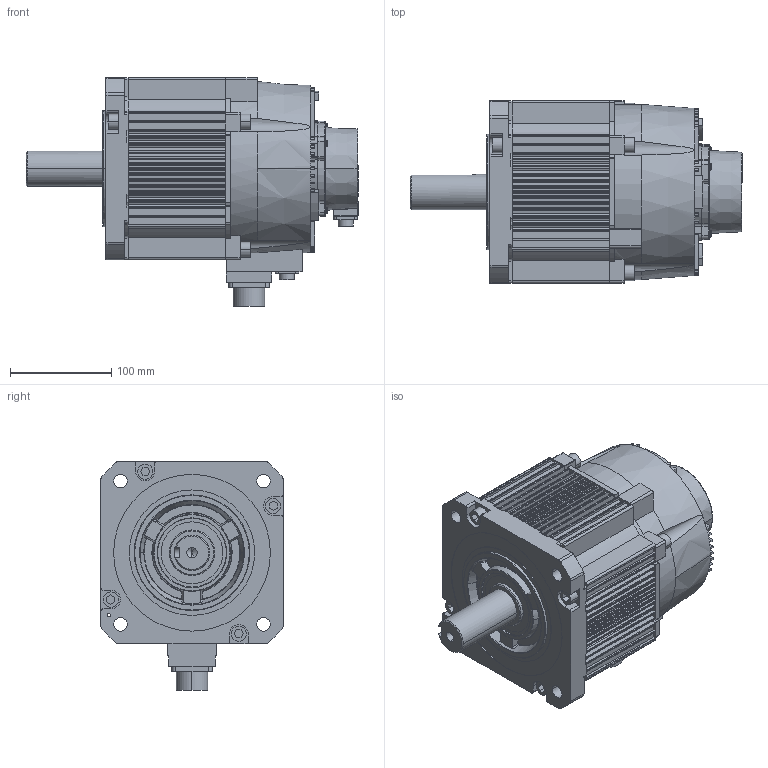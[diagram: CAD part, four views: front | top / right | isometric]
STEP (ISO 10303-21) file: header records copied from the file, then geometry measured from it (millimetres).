
FILE_DESCRIPTION (( 'STEP AP203' ), '1' );
FILE_NAME ('18615.STEP', '2024-09-05T11:00:11', ( '' ), ( '' ), 'SwSTEP 2.0', 'SolidWorks 2018', '' );
FILE_SCHEMA (( 'CONFIG_CONTROL_DESIGN' ));
Length unit declared in the file: millimetre
Products named in the file (10): 蚐猾; 18.6,28.4N.M蛌粣; SC-CMV1-R10P-E; SC-CMV1-R2P-E; 18.6N.M儂褲 - 萵掛 (2); 18615; ヶ裔; 惕掅綴裔; 橈勤硉晤鎢ん誘欶  S13E.10-01; CMS3102A22-22P-Z
Assembly tree (9 placements, depth 2):
  18615
    18.6,28.4N.M蛌粣
    18.6N.M儂褲 - 萵掛 (2)
    CMS3102A22-22P-Z
    SC-CMV1-R10P-E
    SC-CMV1-R2P-E
    惕掅綴裔
    ヶ裔
    蚐猾
    橈勤硉晤鎢ん誘欶  S13E.10-01
Bounding box: 328 x 180 x 226 mm (x, y, z)
Volume: 2614349.1 mm3; surface area: 577484.7 mm2
Topology: 9 solids, 13 shells, 1856 faces, 5050 edges, 3276 vertices
Faces by surface type: plane 900, cylinder 806, cone 65, torus 59, bspline 14, sphere 12
Entity records: 61175 total; most frequent: CARTESIAN_POINT 11962, DIRECTION 10491, ORIENTED_EDGE 9980, EDGE_CURVE 4990, AXIS2_PLACEMENT_3D 3781, VERTEX_POINT 3264, VECTOR 2929, LINE 2929
